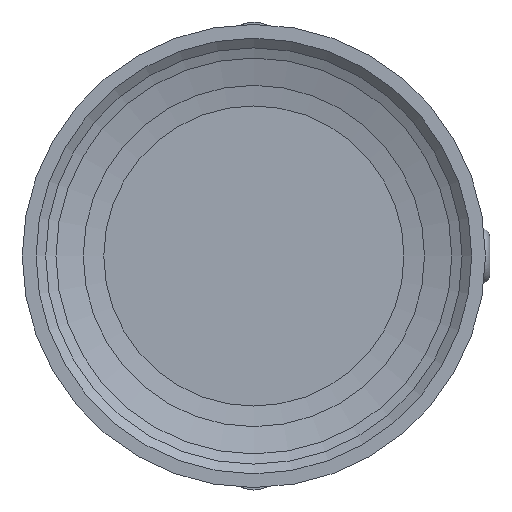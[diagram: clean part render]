
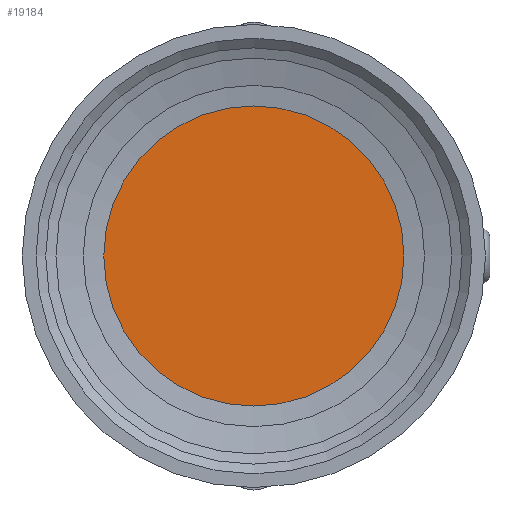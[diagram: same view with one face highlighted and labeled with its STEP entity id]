
A CAD part, front view. The second image highlights one B-rep face of the part: STEP entity #19184.
In plain terms, the highlighted planar face has unit normal (0, -1, 0).
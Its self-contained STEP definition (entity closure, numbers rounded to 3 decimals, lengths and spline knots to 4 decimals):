
#837=PLANE('',#20653);
#2507=FACE_OUTER_BOUND('',#3610,.T.);
#3610=EDGE_LOOP('',(#14123,#14124));
#7930=CIRCLE('',#20314,1.9375);
#7931=CIRCLE('',#20315,1.9375);
#8261=VERTEX_POINT('',#25320);
#8262=VERTEX_POINT('',#25321);
#10218=EDGE_CURVE('',#8261,#8262,#7930,.T.);
#10220=EDGE_CURVE('',#8262,#8261,#7931,.T.);
#14123=ORIENTED_EDGE('',*,*,#10218,.F.);
#14124=ORIENTED_EDGE('',*,*,#10220,.F.);
#19184=ADVANCED_FACE('',(#2507),#837,.F.);
#20314=AXIS2_PLACEMENT_3D('',#25322,#21519,#21520);
#20315=AXIS2_PLACEMENT_3D('',#25324,#21522,#21523);
#20653=AXIS2_PLACEMENT_3D('',#29387,#22314,#22315);
#21519=DIRECTION('center_axis',(0.,1.,0.));
#21520=DIRECTION('ref_axis',(0.,0.,
1.));
#21522=DIRECTION('center_axis',(0.,1.,0.));
#21523=DIRECTION('ref_axis',(0.,0.,
1.));
#22314=DIRECTION('center_axis',(0.,1.,0.));
#22315=DIRECTION('ref_axis',(0.,0.,
1.));
#25320=CARTESIAN_POINT('',(0.,-0.621,-1.9375));
#25321=CARTESIAN_POINT('',(0.,-0.621,1.9375));
#25322=CARTESIAN_POINT('Origin',(0.,-0.621,
0.));
#25324=CARTESIAN_POINT('Origin',(0.,-0.621,
0.));
#29387=CARTESIAN_POINT('Origin',(0.,-0.621,
-1.9375));
